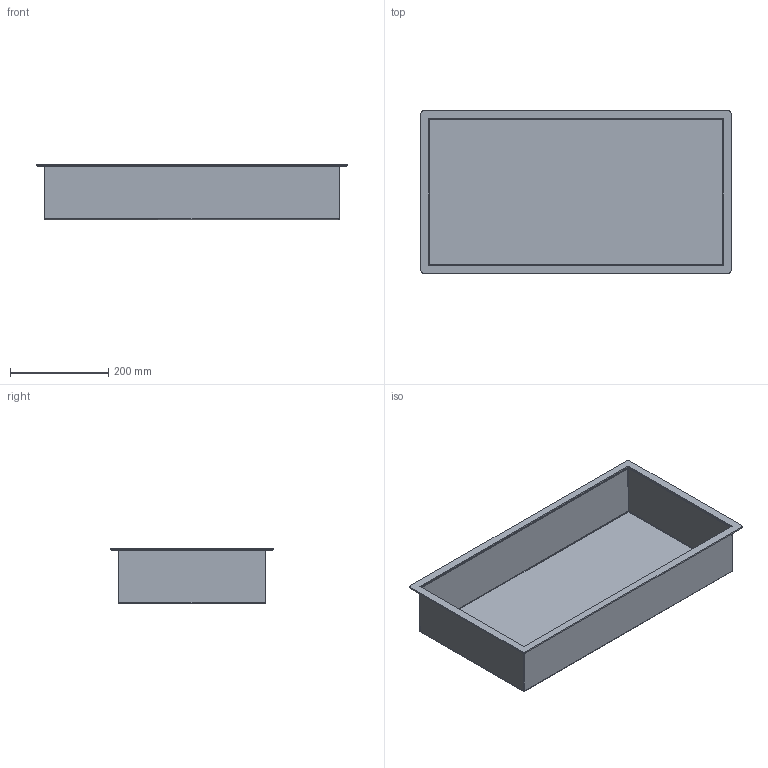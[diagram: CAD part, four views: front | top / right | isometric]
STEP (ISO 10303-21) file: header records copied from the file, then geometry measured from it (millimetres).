
FILE_DESCRIPTION (( 'STEP AP214' ), '1' );
FILE_NAME ('Pó³ka wnêkowa CAVELLA 60x30.STEP', '2025-03-27T11:38:19', ( '' ), ( '' ), 'SwSTEP 2.0', 'SolidWorks 2021', '' );
FILE_SCHEMA (( 'AUTOMOTIVE_DESIGN' ));
Length unit declared in the file: millimetre
Products named in the file (3): 01-015-0630-W-00-01; 01-015-0630-W-00-02; Pó³ka wnêkowa CAVELLA 60x30
Assembly tree (2 placements, depth 2):
  Pó³ka wnêkowa CAVELLA 60x30
    01-015-0630-W-00-01
    01-015-0630-W-00-02
Bounding box: 630 x 330 x 113 mm (x, y, z)
Volume: 482599.9 mm3; surface area: 864284.6 mm2
Topology: 2 solids, 2 shells, 144 faces, 356 edges, 216 vertices
Faces by surface type: plane 72, cylinder 64, bspline 8
Entity records: 4850 total; most frequent: CARTESIAN_POINT 1273, DIRECTION 722, ORIENTED_EDGE 712, EDGE_CURVE 356, AXIS2_PLACEMENT_3D 253, LINE 216, VECTOR 216, VERTEX_POINT 216
